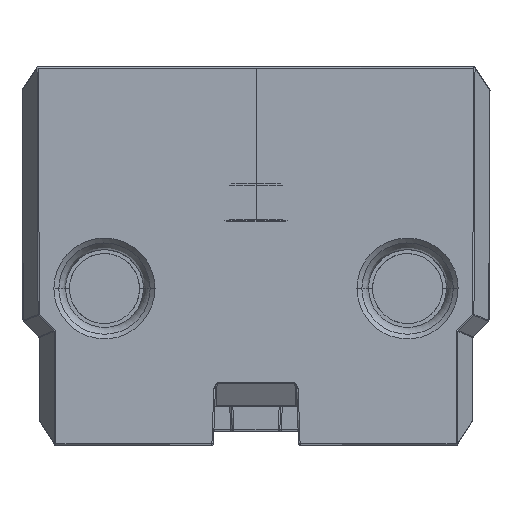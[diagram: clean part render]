
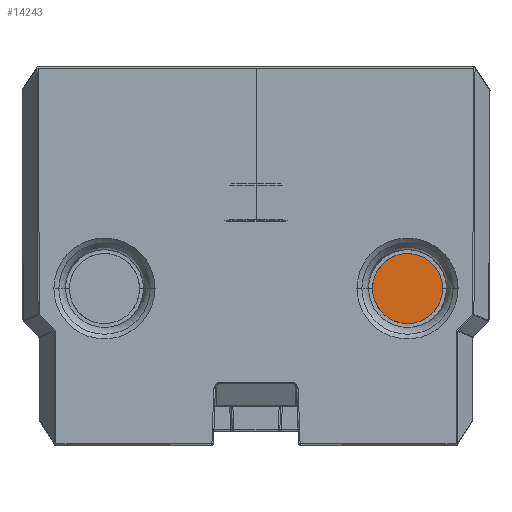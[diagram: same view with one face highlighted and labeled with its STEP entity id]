
A CAD part, front view. The second image highlights one B-rep face of the part: STEP entity #14243.
In plain terms, the highlighted planar face has unit normal (0, -1, 0).
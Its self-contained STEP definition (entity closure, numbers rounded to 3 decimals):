
#861 = DIRECTION ( 'NONE',  ( 0., -1., 0. ) ) ;
#4011 = CARTESIAN_POINT ( 'NONE',  ( 9.75, -174.879, 1.55 ) ) ;
#7875 = FACE_OUTER_BOUND ( 'NONE', #16851, .T. ) ;
#8855 = EDGE_CURVE ( 'NONE', #35080, #70450, #19772, .T. ) ;
#9560 = DIRECTION ( 'NONE',  ( 0.652, 0., 0.758 ) ) ;
#10384 = ORIENTED_EDGE ( 'NONE', *, *, #8855, .T. ) ;
#11509 = PLANE ( 'NONE',  #57776 ) ;
#12235 = EDGE_CURVE ( 'NONE', #70450, #35080, #38259, .T. ) ;
#14243 = ADVANCED_FACE ( 'NONE', ( #7875 ), #11509, .T. ) ;
#15465 = AXIS2_PLACEMENT_3D ( 'NONE', #33812, #861, #39294 ) ;
#16851 = EDGE_LOOP ( 'NONE', ( #10384, #38892 ) ) ;
#17489 = DIRECTION ( 'NONE',  ( 0., -1., 0. ) ) ;
#19772 = CIRCLE ( 'NONE', #24009, 2.25 ) ;
#24009 = AXIS2_PLACEMENT_3D ( 'NONE', #4011, #42422, #9560 ) ;
#33812 = CARTESIAN_POINT ( 'NONE',  ( 9.75, -174.879, 1.55 ) ) ;
#35080 = VERTEX_POINT ( 'NONE', #61715 ) ;
#38259 = CIRCLE ( 'NONE', #15465, 2.25 ) ;
#38892 = ORIENTED_EDGE ( 'NONE', *, *, #12235, .T. ) ;
#39294 = DIRECTION ( 'NONE',  ( 0.652, 0., 0.758 ) ) ;
#42422 = DIRECTION ( 'NONE',  ( 0., -1., 0. ) ) ;
#50331 = CARTESIAN_POINT ( 'NONE',  ( 9.75, -174.879, 1.55 ) ) ;
#55865 = DIRECTION ( 'NONE',  ( 0.652, 0., 0.758 ) ) ;
#57776 = AXIS2_PLACEMENT_3D ( 'NONE', #50331, #17489, #55865 ) ;
#61715 = CARTESIAN_POINT ( 'NONE',  ( 8.283, -174.879, -0.156 ) ) ;
#64138 = CARTESIAN_POINT ( 'NONE',  ( 11.217, -174.879, 3.256 ) ) ;
#70450 = VERTEX_POINT ( 'NONE', #64138 ) ;
